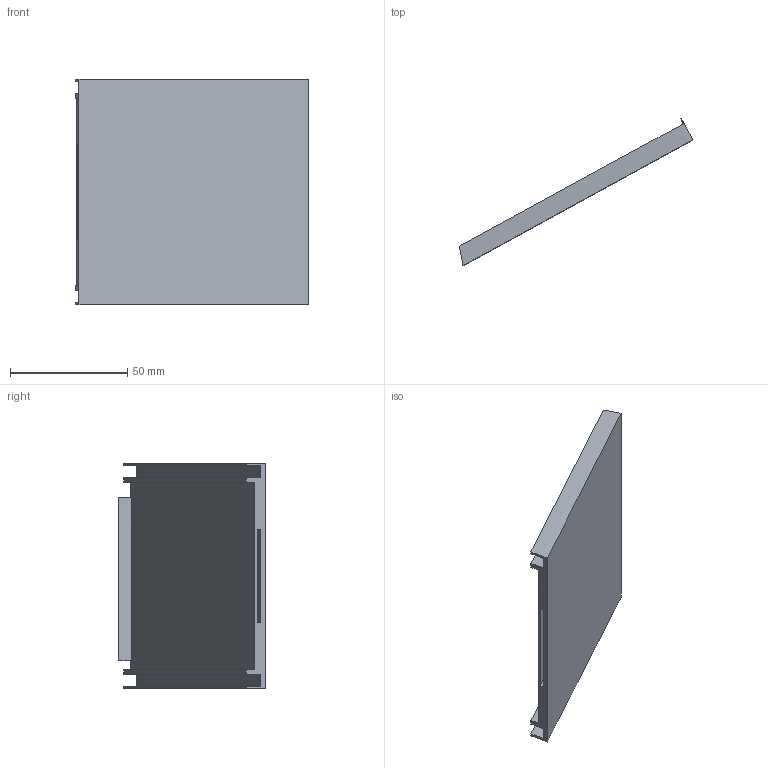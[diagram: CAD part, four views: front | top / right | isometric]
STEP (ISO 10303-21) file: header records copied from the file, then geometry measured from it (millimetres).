
FILE_DESCRIPTION(('STEP AP203'), '1');
FILE_NAME('ðåçîíàòîð 2', '', ('UNSPECIFIED'), ('UNSPECIFIED'), 'ASCON STEP Converter 1.3', 'ASCON Math Kernel', '');
FILE_SCHEMA(('CONFIG_CONTROL_DESIGN'));
Length unit declared in the file: millimetre
Bounding box: 99.6 x 62.81 x 96 mm (x, y, z)
Volume: 41000.5 mm3; surface area: 37336.9 mm2
Topology: 1 solids, 1 shells, 27 faces, 73 edges, 48 vertices
Faces by surface type: plane 27
Entity records: 1095 total; most frequent: CARTESIAN_POINT 149, ORIENTED_EDGE 146, DIRECTION 129, EDGE_CURVE 73, LINE 73, VECTOR 73, VERTEX_POINT 48, FACE_BOUND 29
